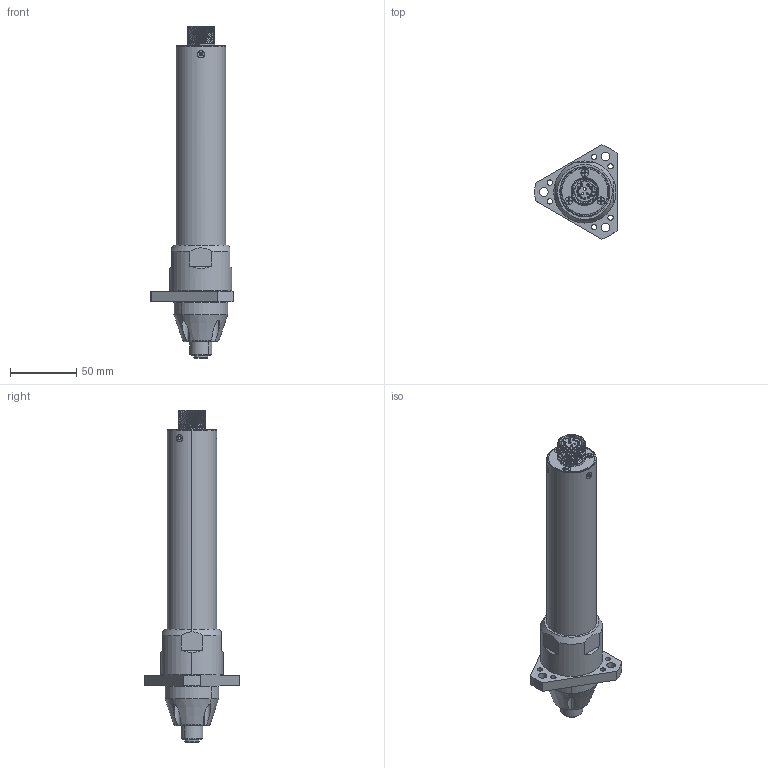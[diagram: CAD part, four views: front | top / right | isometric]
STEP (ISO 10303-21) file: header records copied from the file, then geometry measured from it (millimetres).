
FILE_DESCRIPTION (( 'STEP AP203' ), '1' );
FILE_NAME ('MDA3204,3211,3216-A.STEP', '2023-03-08T03:46:51', ( '' ), ( '' ), 'SwSTEP 2.0', 'SolidWorks 2021', '' );
FILE_SCHEMA (( 'CONFIG_CONTROL_DESIGN' ));
Length unit declared in the file: millimetre
Products named in the file (1): MDA3204,3211,3216-A
Bounding box: 62.43 x 71.48 x 251.5 mm (x, y, z)
Surface area: 44266.9 mm2 (no closed solid volume)
Topology: 0 solids, 34 shells, 351 faces, 1187 edges, 846 vertices
Faces by surface type: cylinder 154, plane 118, cone 57, bspline 22
Entity records: 21058 total; most frequent: CARTESIAN_POINT 11185, DIRECTION 1946, ORIENTED_EDGE 1897, EDGE_CURVE 1185, VERTEX_POINT 845, AXIS2_PLACEMENT_3D 760, CIRCLE 431, LINE 426
